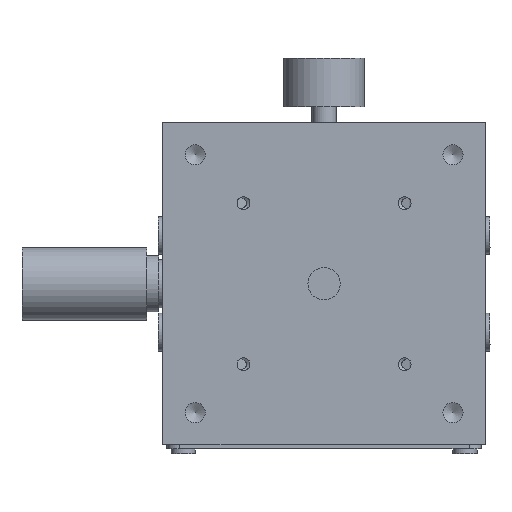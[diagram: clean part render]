
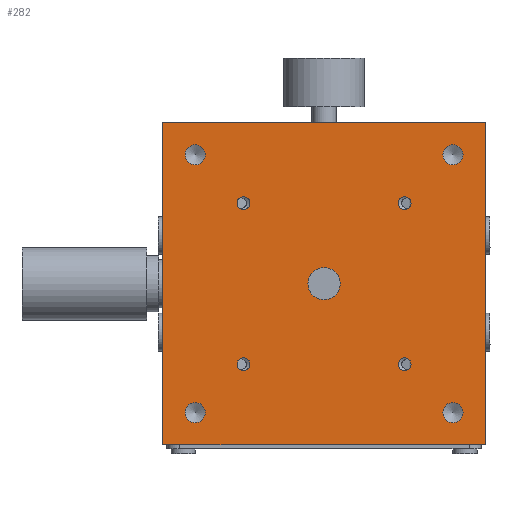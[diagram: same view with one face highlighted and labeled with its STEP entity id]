
A CAD part, top view. The second image highlights one B-rep face of the part: STEP entity #282.
In plain terms, the highlighted planar face has unit normal (0, 0, 1).
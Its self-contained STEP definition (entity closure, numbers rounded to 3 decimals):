
#282 = ADVANCED_FACE( '', ( #587, #588, #589, #590, #591, #592, #593, #594, #595, #596 ), #597, .T. );
#587 = FACE_BOUND( '', #925, .T. );
#588 = FACE_BOUND( '', #926, .T. );
#589 = FACE_BOUND( '', #927, .T. );
#590 = FACE_BOUND( '', #928, .T. );
#591 = FACE_BOUND( '', #929, .T. );
#592 = FACE_BOUND( '', #930, .T. );
#593 = FACE_BOUND( '', #931, .T. );
#594 = FACE_BOUND( '', #932, .T. );
#595 = FACE_OUTER_BOUND( '', #933, .T. );
#596 = FACE_BOUND( '', #934, .T. );
#597 = PLANE( '', #935 );
#925 = EDGE_LOOP( '', ( #1739 ) );
#926 = EDGE_LOOP( '', ( #1740 ) );
#927 = EDGE_LOOP( '', ( #1741 ) );
#928 = EDGE_LOOP( '', ( #1742 ) );
#929 = EDGE_LOOP( '', ( #1743 ) );
#930 = EDGE_LOOP( '', ( #1744 ) );
#931 = EDGE_LOOP( '', ( #1745 ) );
#932 = EDGE_LOOP( '', ( #1746 ) );
#933 = EDGE_LOOP( '', ( #1747, #1748, #1749, #1750 ) );
#934 = EDGE_LOOP( '', ( #1751 ) );
#935 = AXIS2_PLACEMENT_3D( '', #1752, #1753, #1754 );
#1739 = ORIENTED_EDGE( '', *, *, #2067, .T. );
#1740 = ORIENTED_EDGE( '', *, *, #2068, .T. );
#1741 = ORIENTED_EDGE( '', *, *, #2002, .T. );
#1742 = ORIENTED_EDGE( '', *, *, #2001, .T. );
#1743 = ORIENTED_EDGE( '', *, *, #2006, .T. );
#1744 = ORIENTED_EDGE( '', *, *, #2010, .T. );
#1745 = ORIENTED_EDGE( '', *, *, #2014, .T. );
#1746 = ORIENTED_EDGE( '', *, *, #2018, .T. );
#1747 = ORIENTED_EDGE( '', *, *, #1985, .F. );
#1748 = ORIENTED_EDGE( '', *, *, #2064, .F. );
#1749 = ORIENTED_EDGE( '', *, *, #2054, .F. );
#1750 = ORIENTED_EDGE( '', *, *, #2034, .F. );
#1751 = ORIENTED_EDGE( '', *, *, #1977, .T. );
#1752 = CARTESIAN_POINT( '', ( 0., 0., 15. ) );
#1753 = DIRECTION( '', ( 0., 0., 1. ) );
#1754 = DIRECTION( '', ( 0., 1., 0. ) );
#1977 = EDGE_CURVE( '', #2329, #2329, #2330, .F. );
#1985 = EDGE_CURVE( '', #2344, #2346, #2347, .T. );
#2001 = EDGE_CURVE( '', #2373, #2373, #2374, .T. );
#2002 = EDGE_CURVE( '', #2375, #2375, #2376, .T. );
#2006 = EDGE_CURVE( '', #2381, #2381, #2382, .T. );
#2010 = EDGE_CURVE( '', #2387, #2387, #2388, .T. );
#2014 = EDGE_CURVE( '', #2393, #2393, #2394, .T. );
#2018 = EDGE_CURVE( '', #2399, #2399, #2400, .T. );
#2034 = EDGE_CURVE( '', #2346, #2428, #2429, .T. );
#2054 = EDGE_CURVE( '', #2428, #2460, #2461, .T. );
#2064 = EDGE_CURVE( '', #2460, #2344, #2476, .T. );
#2067 = EDGE_CURVE( '', #2480, #2480, #2481, .T. );
#2068 = EDGE_CURVE( '', #2482, #2482, #2483, .T. );
#2329 = VERTEX_POINT( '', #3149 );
#2330 = CIRCLE( '', #3150, 2. );
#2344 = VERTEX_POINT( '', #3170 );
#2346 = VERTEX_POINT( '', #3173 );
#2347 = LINE( '', #3174, #3175 );
#2373 = VERTEX_POINT( '', #3227 );
#2374 = CIRCLE( '', #3228, 0.8 );
#2375 = VERTEX_POINT( '', #3229 );
#2376 = CIRCLE( '', #3230, 0.8 );
#2381 = VERTEX_POINT( '', #3235 );
#2382 = CIRCLE( '', #3236, 1.25 );
#2387 = VERTEX_POINT( '', #3241 );
#2388 = CIRCLE( '', #3242, 1.25 );
#2393 = VERTEX_POINT( '', #3247 );
#2394 = CIRCLE( '', #3248, 1.25 );
#2399 = VERTEX_POINT( '', #3253 );
#2400 = CIRCLE( '', #3254, 1.25 );
#2428 = VERTEX_POINT( '', #3290 );
#2429 = LINE( '', #3291, #3292 );
#2460 = VERTEX_POINT( '', #3336 );
#2461 = LINE( '', #3337, #3338 );
#2476 = LINE( '', #3356, #3357 );
#2480 = VERTEX_POINT( '', #3361 );
#2481 = CIRCLE( '', #3362, 0.8 );
#2482 = VERTEX_POINT( '', #3363 );
#2483 = CIRCLE( '', #3364, 0.8 );
#3149 = CARTESIAN_POINT( '', ( 0., 2., 15. ) );
#3150 = AXIS2_PLACEMENT_3D( '', #3658, #3659, #3660 );
#3170 = CARTESIAN_POINT( '', ( 20., 20., 15. ) );
#3173 = CARTESIAN_POINT( '', ( 20., -20., 15. ) );
#3174 = CARTESIAN_POINT( '', ( 20., 0., 15. ) );
#3175 = VECTOR( '', #3671, 1000. );
#3227 = CARTESIAN_POINT( '', ( -9.2, -10., 15. ) );
#3228 = AXIS2_PLACEMENT_3D( '', #3692, #3693, #3694 );
#3229 = CARTESIAN_POINT( '', ( -9.2, 10., 15. ) );
#3230 = AXIS2_PLACEMENT_3D( '', #3695, #3696, #3697 );
#3235 = CARTESIAN_POINT( '', ( 17.25, -16., 15. ) );
#3236 = AXIS2_PLACEMENT_3D( '', #3704, #3705, #3706 );
#3241 = CARTESIAN_POINT( '', ( 17.25, 16., 15. ) );
#3242 = AXIS2_PLACEMENT_3D( '', #3713, #3714, #3715 );
#3247 = CARTESIAN_POINT( '', ( -14.75, 16., 15. ) );
#3248 = AXIS2_PLACEMENT_3D( '', #3722, #3723, #3724 );
#3253 = CARTESIAN_POINT( '', ( -14.75, -16., 15. ) );
#3254 = AXIS2_PLACEMENT_3D( '', #3731, #3732, #3733 );
#3290 = CARTESIAN_POINT( '', ( -20., -20., 15. ) );
#3291 = CARTESIAN_POINT( '', ( 0., -20., 15. ) );
#3292 = VECTOR( '', #3763, 1000. );
#3336 = CARTESIAN_POINT( '', ( -20., 20., 15. ) );
#3337 = CARTESIAN_POINT( '', ( -20., 0., 15. ) );
#3338 = VECTOR( '', #3798, 1000. );
#3356 = CARTESIAN_POINT( '', ( 0., 20., 15. ) );
#3357 = VECTOR( '', #3820, 1000. );
#3361 = CARTESIAN_POINT( '', ( 10.8, -10., 15. ) );
#3362 = AXIS2_PLACEMENT_3D( '', #3827, #3828, #3829 );
#3363 = CARTESIAN_POINT( '', ( 10.8, 10., 15. ) );
#3364 = AXIS2_PLACEMENT_3D( '', #3830, #3831, #3832 );
#3658 = CARTESIAN_POINT( '', ( 0., 0., 15. ) );
#3659 = DIRECTION( '', ( 0., 0., 1. ) );
#3660 = DIRECTION( '', ( 0., 1., 0. ) );
#3671 = DIRECTION( '', ( 0., -1., 0. ) );
#3692 = CARTESIAN_POINT( '', ( -10., -10., 15. ) );
#3693 = DIRECTION( '', ( 0., 0., -1. ) );
#3694 = DIRECTION( '', ( 1., 0., 0. ) );
#3695 = CARTESIAN_POINT( '', ( -10., 10., 15. ) );
#3696 = DIRECTION( '', ( 0., 0., -1. ) );
#3697 = DIRECTION( '', ( 1., 0., 0. ) );
#3704 = CARTESIAN_POINT( '', ( 16., -16., 15. ) );
#3705 = DIRECTION( '', ( 0., 0., -1. ) );
#3706 = DIRECTION( '', ( 1., 0., 0. ) );
#3713 = CARTESIAN_POINT( '', ( 16., 16., 15. ) );
#3714 = DIRECTION( '', ( 0., 0., -1. ) );
#3715 = DIRECTION( '', ( 1., 0., 0. ) );
#3722 = CARTESIAN_POINT( '', ( -16., 16., 15. ) );
#3723 = DIRECTION( '', ( 0., 0., -1. ) );
#3724 = DIRECTION( '', ( 1., 0., 0. ) );
#3731 = CARTESIAN_POINT( '', ( -16., -16., 15. ) );
#3732 = DIRECTION( '', ( 0., 0., -1. ) );
#3733 = DIRECTION( '', ( 1., 0., 0. ) );
#3763 = DIRECTION( '', ( -1., 0., 0. ) );
#3798 = DIRECTION( '', ( 0., 1., 0. ) );
#3820 = DIRECTION( '', ( 1., 0., 0. ) );
#3827 = CARTESIAN_POINT( '', ( 10., -10., 15. ) );
#3828 = DIRECTION( '', ( 0., 0., -1. ) );
#3829 = DIRECTION( '', ( 1., 0., 0. ) );
#3830 = CARTESIAN_POINT( '', ( 10., 10., 15. ) );
#3831 = DIRECTION( '', ( 0., 0., -1. ) );
#3832 = DIRECTION( '', ( 1., 0., 0. ) );
